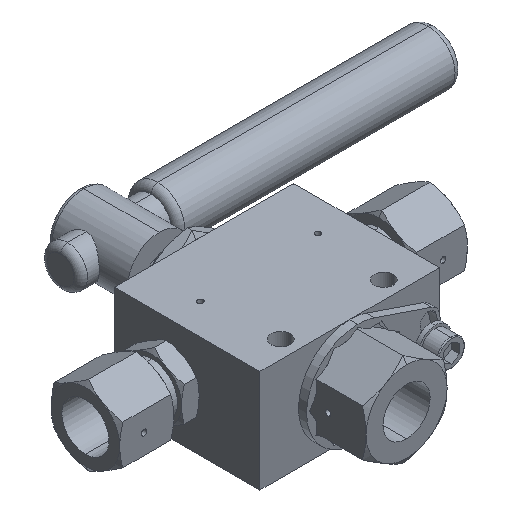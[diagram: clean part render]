
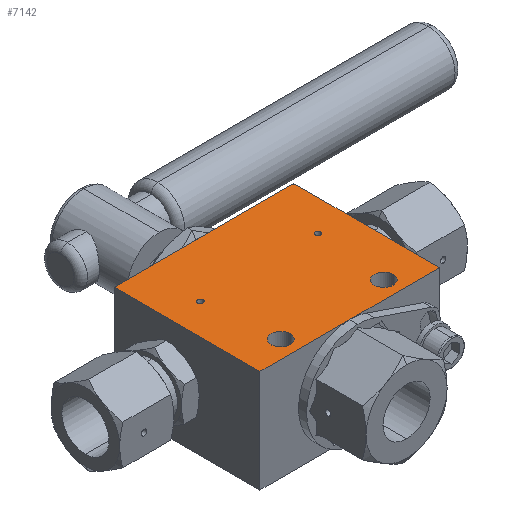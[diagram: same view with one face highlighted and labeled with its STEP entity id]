
A CAD part, isometric view. The second image highlights one B-rep face of the part: STEP entity #7142.
In plain terms, the highlighted planar face has unit normal (0, 0, 1).
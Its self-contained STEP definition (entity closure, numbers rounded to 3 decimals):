
#85 = DIRECTION ( 'NONE',  ( 1., 0., 0. ) ) ;
#167 = CARTESIAN_POINT ( 'NONE',  ( -21.75, 6.5, 19. ) ) ;
#238 = DIRECTION ( 'NONE',  ( 0., 0., -1. ) ) ;
#289 = DIRECTION ( 'NONE',  ( 1., 0., 0. ) ) ;
#407 = VERTEX_POINT ( 'NONE', #1552 ) ;
#437 = DIRECTION ( 'NONE',  ( 0., 0., 1. ) ) ;
#554 = DIRECTION ( 'NONE',  ( -1., 0., 0. ) ) ;
#738 = VERTEX_POINT ( 'NONE', #2988 ) ;
#824 = AXIS2_PLACEMENT_3D ( 'NONE', #6297, #238, #7705 ) ;
#852 = CARTESIAN_POINT ( 'NONE',  ( -33.25, -27., 19. ) ) ;
#895 = LINE ( 'NONE', #8540, #3561 ) ;
#970 = VECTOR ( 'NONE', #3261, 1000. ) ;
#1031 = CIRCLE ( 'NONE', #1598, 3.5 ) ;
#1073 = ORIENTED_EDGE ( 'NONE', *, *, #7327, .F. ) ;
#1373 = CARTESIAN_POINT ( 'NONE',  ( -33.25, -27., 19. ) ) ;
#1516 = CARTESIAN_POINT ( 'NONE',  ( 33.25, -27., 19. ) ) ;
#1552 = CARTESIAN_POINT ( 'NONE',  ( -22.75, 6.5, 19. ) ) ;
#1598 = AXIS2_PLACEMENT_3D ( 'NONE', #4389, #6487, #289 ) ;
#1603 = ORIENTED_EDGE ( 'NONE', *, *, #5758, .F. ) ;
#1731 = CARTESIAN_POINT ( 'NONE',  ( -22.55, -20.5, 19. ) ) ;
#1737 = VERTEX_POINT ( 'NONE', #3750 ) ;
#1743 = CIRCLE ( 'NONE', #4777, 3.5 ) ;
#1811 = ORIENTED_EDGE ( 'NONE', *, *, #8722, .F. ) ;
#1846 = EDGE_CURVE ( 'NONE', #6384, #7418, #8198, .T. ) ;
#1869 = DIRECTION ( 'NONE',  ( 1., 0., 0. ) ) ;
#1982 = CARTESIAN_POINT ( 'NONE',  ( -33.25, 27., 19. ) ) ;
#1991 = CIRCLE ( 'NONE', #2140, 1. ) ;
#2140 = AXIS2_PLACEMENT_3D ( 'NONE', #8126, #3323, #1869 ) ;
#2150 = DIRECTION ( 'NONE',  ( 0., 1., 0. ) ) ;
#2323 = EDGE_CURVE ( 'NONE', #2964, #6384, #3460, .T. ) ;
#2430 = EDGE_CURVE ( 'NONE', #407, #3658, #6609, .T. ) ;
#2506 = EDGE_CURVE ( 'NONE', #5035, #738, #7818, .T. ) ;
#2548 = CIRCLE ( 'NONE', #3700, 1. ) ;
#2766 = AXIS2_PLACEMENT_3D ( 'NONE', #4442, #4538, #5166 ) ;
#2842 = AXIS2_PLACEMENT_3D ( 'NONE', #167, #6449, #8493 ) ;
#2888 = EDGE_CURVE ( 'NONE', #4565, #4627, #1031, .T. ) ;
#2898 = AXIS2_PLACEMENT_3D ( 'NONE', #5399, #437, #7312 ) ;
#2947 = FACE_BOUND ( 'NONE', #8759, .T. ) ;
#2964 = VERTEX_POINT ( 'NONE', #6578 ) ;
#2969 = DIRECTION ( 'NONE',  ( 1., 0., 0. ) ) ;
#2988 = CARTESIAN_POINT ( 'NONE',  ( 22.75, 6.5, 19. ) ) ;
#3176 = CARTESIAN_POINT ( 'NONE',  ( -21.75, 6.5, 19. ) ) ;
#3221 = DIRECTION ( 'NONE',  ( 1., 0., 0. ) ) ;
#3261 = DIRECTION ( 'NONE',  ( 0., -1., 0. ) ) ;
#3323 = DIRECTION ( 'NONE',  ( 0., 0., 1. ) ) ;
#3370 = CARTESIAN_POINT ( 'NONE',  ( -19.05, -20.5, 19. ) ) ;
#3445 = ORIENTED_EDGE ( 'NONE', *, *, #3765, .F. ) ;
#3460 = LINE ( 'NONE', #1516, #7614 ) ;
#3475 = EDGE_LOOP ( 'NONE', ( #6240, #6014, #5101, #6463, #4803 ) ) ;
#3500 = AXIS2_PLACEMENT_3D ( 'NONE', #4470, #5191, #7112 ) ;
#3508 = LINE ( 'NONE', #6275, #7620 ) ;
#3531 = PLANE ( 'NONE',  #824 ) ;
#3561 = VECTOR ( 'NONE', #2969, 1000. ) ;
#3595 = ORIENTED_EDGE ( 'NONE', *, *, #2430, .F. ) ;
#3658 = VERTEX_POINT ( 'NONE', #7948 ) ;
#3700 = AXIS2_PLACEMENT_3D ( 'NONE', #3176, #3847, #3221 ) ;
#3747 = ORIENTED_EDGE ( 'NONE', *, *, #5439, .F. ) ;
#3750 = CARTESIAN_POINT ( 'NONE',  ( -15.55, -20.5, 19. ) ) ;
#3765 = EDGE_CURVE ( 'NONE', #738, #5035, #1991, .T. ) ;
#3847 = DIRECTION ( 'NONE',  ( 0., 0., 1. ) ) ;
#4086 = DIRECTION ( 'NONE',  ( 1., 0., 0. ) ) ;
#4280 = VECTOR ( 'NONE', #554, 1000. ) ;
#4389 = CARTESIAN_POINT ( 'NONE',  ( 19.05, -20.5, 19. ) ) ;
#4442 = CARTESIAN_POINT ( 'NONE',  ( -19.05, -20.5, 19. ) ) ;
#4470 = CARTESIAN_POINT ( 'NONE',  ( 19.05, -20.5, 19. ) ) ;
#4538 = DIRECTION ( 'NONE',  ( 0., 0., 1. ) ) ;
#4565 = VERTEX_POINT ( 'NONE', #6156 ) ;
#4627 = VERTEX_POINT ( 'NONE', #6203 ) ;
#4777 = AXIS2_PLACEMENT_3D ( 'NONE', #3370, #6083, #4086 ) ;
#4803 = ORIENTED_EDGE ( 'NONE', *, *, #6439, .T. ) ;
#5035 = VERTEX_POINT ( 'NONE', #5596 ) ;
#5067 = FACE_BOUND ( 'NONE', #6127, .T. ) ;
#5101 = ORIENTED_EDGE ( 'NONE', *, *, #7364, .T. ) ;
#5130 = CARTESIAN_POINT ( 'NONE',  ( 0., -27., 19. ) ) ;
#5166 = DIRECTION ( 'NONE',  ( 1., 0., 0. ) ) ;
#5178 = VERTEX_POINT ( 'NONE', #852 ) ;
#5191 = DIRECTION ( 'NONE',  ( 0., 0., 1. ) ) ;
#5399 = CARTESIAN_POINT ( 'NONE',  ( 21.75, 6.5, 19. ) ) ;
#5439 = EDGE_CURVE ( 'NONE', #6908, #1737, #1743, .T. ) ;
#5596 = CARTESIAN_POINT ( 'NONE',  ( 20.75, 6.5, 19. ) ) ;
#5665 = FACE_OUTER_BOUND ( 'NONE', #3475, .T. ) ;
#5704 = FACE_BOUND ( 'NONE', #7138, .T. ) ;
#5758 = EDGE_CURVE ( 'NONE', #1737, #6908, #7682, .T. ) ;
#6014 = ORIENTED_EDGE ( 'NONE', *, *, #1846, .T. ) ;
#6083 = DIRECTION ( 'NONE',  ( 0., 0., 1. ) ) ;
#6127 = EDGE_LOOP ( 'NONE', ( #3595, #1073 ) ) ;
#6156 = CARTESIAN_POINT ( 'NONE',  ( 15.55, -20.5, 19. ) ) ;
#6203 = CARTESIAN_POINT ( 'NONE',  ( 22.55, -20.5, 19. ) ) ;
#6240 = ORIENTED_EDGE ( 'NONE', *, *, #2323, .T. ) ;
#6275 = CARTESIAN_POINT ( 'NONE',  ( -33.25, -27., 19. ) ) ;
#6297 = CARTESIAN_POINT ( 'NONE',  ( 0., 0., 19. ) ) ;
#6353 = EDGE_CURVE ( 'NONE', #5178, #6450, #3508, .T. ) ;
#6384 = VERTEX_POINT ( 'NONE', #7816 ) ;
#6439 = EDGE_CURVE ( 'NONE', #6450, #2964, #895, .T. ) ;
#6449 = DIRECTION ( 'NONE',  ( 0., 0., 1. ) ) ;
#6450 = VERTEX_POINT ( 'NONE', #5130 ) ;
#6463 = ORIENTED_EDGE ( 'NONE', *, *, #6353, .T. ) ;
#6487 = DIRECTION ( 'NONE',  ( 0., 0., 1. ) ) ;
#6578 = CARTESIAN_POINT ( 'NONE',  ( 33.25, -27., 19. ) ) ;
#6609 = CIRCLE ( 'NONE', #2842, 1. ) ;
#6908 = VERTEX_POINT ( 'NONE', #1731 ) ;
#6983 = FACE_BOUND ( 'NONE', #7814, .T. ) ;
#7112 = DIRECTION ( 'NONE',  ( 1., 0., 0. ) ) ;
#7138 = EDGE_LOOP ( 'NONE', ( #8517, #3445 ) ) ;
#7142 = ADVANCED_FACE ( 'NONE', ( #5665, #5067, #5704, #6983, #2947 ), #3531, .F. ) ;
#7312 = DIRECTION ( 'NONE',  ( 1., 0., 0. ) ) ;
#7327 = EDGE_CURVE ( 'NONE', #3658, #407, #2548, .T. ) ;
#7364 = EDGE_CURVE ( 'NONE', #7418, #5178, #8927, .T. ) ;
#7406 = ORIENTED_EDGE ( 'NONE', *, *, #2888, .F. ) ;
#7418 = VERTEX_POINT ( 'NONE', #8837 ) ;
#7614 = VECTOR ( 'NONE', #2150, 1000. ) ;
#7620 = VECTOR ( 'NONE', #85, 1000. ) ;
#7682 = CIRCLE ( 'NONE', #2766, 3.5 ) ;
#7705 = DIRECTION ( 'NONE',  ( -1., 0., 0. ) ) ;
#7814 = EDGE_LOOP ( 'NONE', ( #3747, #1603 ) ) ;
#7816 = CARTESIAN_POINT ( 'NONE',  ( 33.25, 27., 19. ) ) ;
#7818 = CIRCLE ( 'NONE', #2898, 1. ) ;
#7845 = CIRCLE ( 'NONE', #3500, 3.5 ) ;
#7948 = CARTESIAN_POINT ( 'NONE',  ( -20.75, 6.5, 19. ) ) ;
#8126 = CARTESIAN_POINT ( 'NONE',  ( 21.75, 6.5, 19. ) ) ;
#8198 = LINE ( 'NONE', #1982, #4280 ) ;
#8493 = DIRECTION ( 'NONE',  ( 1., 0., 0. ) ) ;
#8517 = ORIENTED_EDGE ( 'NONE', *, *, #2506, .F. ) ;
#8540 = CARTESIAN_POINT ( 'NONE',  ( -33.25, -27., 19. ) ) ;
#8722 = EDGE_CURVE ( 'NONE', #4627, #4565, #7845, .T. ) ;
#8759 = EDGE_LOOP ( 'NONE', ( #7406, #1811 ) ) ;
#8837 = CARTESIAN_POINT ( 'NONE',  ( -33.25, 27., 19. ) ) ;
#8927 = LINE ( 'NONE', #1373, #970 ) ;
